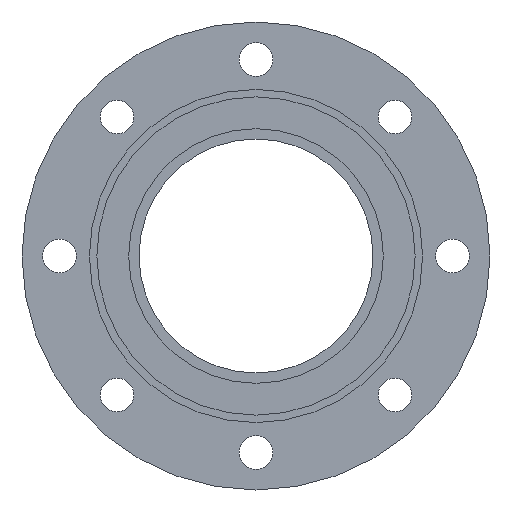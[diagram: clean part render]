
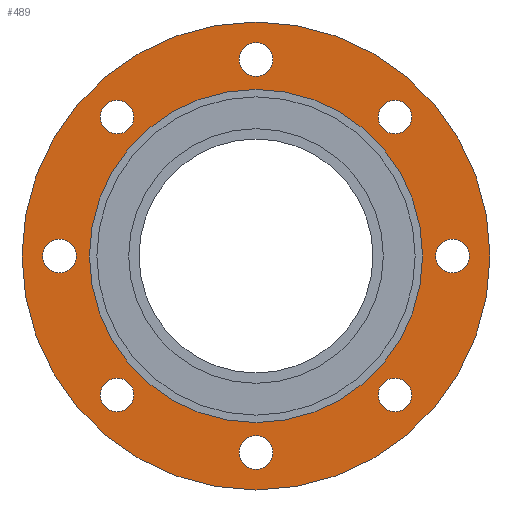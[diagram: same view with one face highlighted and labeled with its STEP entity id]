
A CAD part, left-side view. The second image highlights one B-rep face of the part: STEP entity #489.
In plain terms, the highlighted planar face has unit normal (-1, 0, 0).
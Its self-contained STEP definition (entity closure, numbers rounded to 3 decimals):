
#489=ADVANCED_FACE('',(#8410,#8412,#8414,#8416,#8418,#8420,#8422,#8424,#8426,#8428),
#8430,.T.);
#8410=FACE_BOUND('',#8411,.T.);
#8411=EDGE_LOOP('',(#14979));
#8412=FACE_BOUND('',#8413,.T.);
#8413=EDGE_LOOP('',(#14980));
#8414=FACE_BOUND('',#8415,.T.);
#8415=EDGE_LOOP('',(#14981));
#8416=FACE_BOUND('',#8417,.T.);
#8417=EDGE_LOOP('',(#14982));
#8418=FACE_BOUND('',#8419,.T.);
#8419=EDGE_LOOP('',(#14983));
#8420=FACE_BOUND('',#8421,.T.);
#8421=EDGE_LOOP('',(#14984));
#8422=FACE_BOUND('',#8423,.T.);
#8423=EDGE_LOOP('',(#14985));
#8424=FACE_BOUND('',#8425,.T.);
#8425=EDGE_LOOP('',(#14986));
#8426=FACE_BOUND('',#8427,.T.);
#8427=EDGE_LOOP('',(#14987));
#8428=FACE_BOUND('',#8429,.T.);
#8429=EDGE_LOOP('',(#14988));
#8430=PLANE('',#8431);
#8431=AXIS2_PLACEMENT_3D('',#8432,#8433,#8434);
#8432=CARTESIAN_POINT('',(7231.54,929.104,0.));
#8433=DIRECTION('',(-1.,0.,0.));
#8434=DIRECTION('',(0.,0.,1.));
#14979=ORIENTED_EDGE('',*,*,#20046,.F.);
#14980=ORIENTED_EDGE('',*,*,#19990,.T.);
#14981=ORIENTED_EDGE('',*,*,#19992,.T.);
#14982=ORIENTED_EDGE('',*,*,#19994,.T.);
#14983=ORIENTED_EDGE('',*,*,#20012,.T.);
#14984=ORIENTED_EDGE('',*,*,#20014,.T.);
#14985=ORIENTED_EDGE('',*,*,#20016,.T.);
#14986=ORIENTED_EDGE('',*,*,#20018,.T.);
#14987=ORIENTED_EDGE('',*,*,#19988,.T.);
#14988=ORIENTED_EDGE('',*,*,#20045,.T.);
#19988=EDGE_CURVE('',#23128,#23128,#23129,.T.);
#19990=EDGE_CURVE('',#23132,#23132,#23133,.T.);
#19992=EDGE_CURVE('',#23136,#23136,#23137,.T.);
#19994=EDGE_CURVE('',#23140,#23140,#23141,.T.);
#20012=EDGE_CURVE('',#23176,#23176,#23177,.T.);
#20014=EDGE_CURVE('',#23180,#23180,#23181,.T.);
#20016=EDGE_CURVE('',#23184,#23184,#23185,.T.);
#20018=EDGE_CURVE('',#23188,#23188,#23189,.T.);
#20045=EDGE_CURVE('',#23242,#23242,#23243,.T.);
#20046=EDGE_CURVE('',#23244,#23244,#23245,.T.);
#23128=VERTEX_POINT('',#30033);
#23129=CIRCLE('',#30034,9.);
#23132=VERTEX_POINT('',#30043);
#23133=CIRCLE('',#30044,9.);
#23136=VERTEX_POINT('',#30053);
#23137=CIRCLE('',#30054,9.);
#23140=VERTEX_POINT('',#30063);
#23141=CIRCLE('',#30064,9.);
#23176=VERTEX_POINT('',#30153);
#23177=CIRCLE('',#30154,9.);
#23180=VERTEX_POINT('',#30163);
#23181=CIRCLE('',#30164,9.);
#23184=VERTEX_POINT('',#30173);
#23185=CIRCLE('',#30174,9.);
#23188=VERTEX_POINT('',#30183);
#23189=CIRCLE('',#30184,9.);
#23242=VERTEX_POINT('',#30318);
#23243=CIRCLE('',#30319,89.);
#23244=VERTEX_POINT('',#30323);
#23245=CIRCLE('',#30324,125.);
#30033=CARTESIAN_POINT('',(7231.54,1054.104,-114.));
#30034=AXIS2_PLACEMENT_3D('',#30035,#30036,#30037);
#30035=CARTESIAN_POINT('',(7231.54,1054.104,-105.));
#30036=DIRECTION('',(1.,0.,0.));
#30037=DIRECTION('',(0.,0.,-1.));
#30043=CARTESIAN_POINT('',(7231.54,949.104,-9.));
#30044=AXIS2_PLACEMENT_3D('',#30045,#30046,#30047);
#30045=CARTESIAN_POINT('',(7231.54,949.104,0.));
#30046=DIRECTION('',(1.,0.,0.));
#30047=DIRECTION('',(0.,0.,-1.));
#30053=CARTESIAN_POINT('',(7231.54,1054.104,96.));
#30054=AXIS2_PLACEMENT_3D('',#30055,#30056,#30057);
#30055=CARTESIAN_POINT('',(7231.54,1054.104,105.));
#30056=DIRECTION('',(1.,0.,0.));
#30057=DIRECTION('',(0.,0.,-1.));
#30063=CARTESIAN_POINT('',(7231.54,1159.104,-9.));
#30064=AXIS2_PLACEMENT_3D('',#30065,#30066,#30067);
#30065=CARTESIAN_POINT('',(7231.54,1159.104,0.));
#30066=DIRECTION('',(1.,0.,0.));
#30067=DIRECTION('',(0.,0.,-1.));
#30153=CARTESIAN_POINT('',(7231.54,1128.35,65.246));
#30154=AXIS2_PLACEMENT_3D('',#30155,#30156,#30157);
#30155=CARTESIAN_POINT('',(7231.54,1128.35,74.246));
#30156=DIRECTION('',(1.,0.,0.));
#30157=DIRECTION('',(0.,0.,-1.));
#30163=CARTESIAN_POINT('',(7231.54,979.858,65.246));
#30164=AXIS2_PLACEMENT_3D('',#30165,#30166,#30167);
#30165=CARTESIAN_POINT('',(7231.54,979.858,74.246));
#30166=DIRECTION('',(1.,0.,0.));
#30167=DIRECTION('',(0.,0.,-1.));
#30173=CARTESIAN_POINT('',(7231.54,979.858,-83.246));
#30174=AXIS2_PLACEMENT_3D('',#30175,#30176,#30177);
#30175=CARTESIAN_POINT('',(7231.54,979.858,-74.246));
#30176=DIRECTION('',(1.,0.,0.));
#30177=DIRECTION('',(0.,0.,-1.));
#30183=CARTESIAN_POINT('',(7231.54,1128.35,-83.246));
#30184=AXIS2_PLACEMENT_3D('',#30185,#30186,#30187);
#30185=CARTESIAN_POINT('',(7231.54,1128.35,-74.246));
#30186=DIRECTION('',(1.,0.,0.));
#30187=DIRECTION('',(0.,0.,-1.));
#30318=CARTESIAN_POINT('',(7231.54,965.104,0.));
#30319=AXIS2_PLACEMENT_3D('',#30320,#30321,#30322);
#30320=CARTESIAN_POINT('',(7231.54,1054.104,0.));
#30321=DIRECTION('',(1.,0.,0.));
#30322=DIRECTION('',(0.,-1.,0.));
#30323=CARTESIAN_POINT('',(7231.54,929.104,0.));
#30324=AXIS2_PLACEMENT_3D('',#30325,#30326,#30327);
#30325=CARTESIAN_POINT('',(7231.54,1054.104,0.));
#30326=DIRECTION('',(1.,0.,0.));
#30327=DIRECTION('',(0.,-1.,0.));
